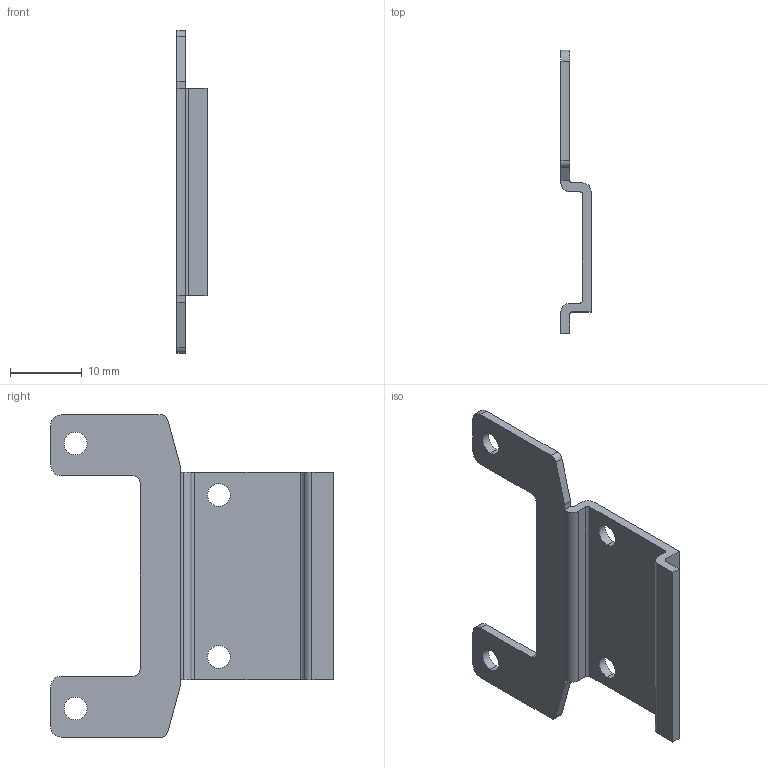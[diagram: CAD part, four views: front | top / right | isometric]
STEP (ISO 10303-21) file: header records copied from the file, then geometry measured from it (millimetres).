
FILE_DESCRIPTION (( 'STEP AP203' ), '1' );
FILE_NAME ('SX5000.STEP', '2021-06-24T13:28:50', ( '' ), ( '' ), 'SwSTEP 2.0', 'SolidWorks 2019', '' );
FILE_SCHEMA (( 'CONFIG_CONTROL_DESIGN' ));
Length unit declared in the file: millimetre
Products named in the file (1): SX5000
Bounding box: 4.21 x 39.5 x 45 mm (x, y, z)
Volume: 1436.1 mm3; surface area: 2644.9 mm2
Topology: 1 solids, 1 shells, 49 faces, 139 edges, 92 vertices
Faces by surface type: cylinder 25, plane 24
Entity records: 1700 total; most frequent: DIRECTION 289, CARTESIAN_POINT 281, ORIENTED_EDGE 278, EDGE_CURVE 139, AXIS2_PLACEMENT_3D 100, VERTEX_POINT 92, VECTOR 89, LINE 89
